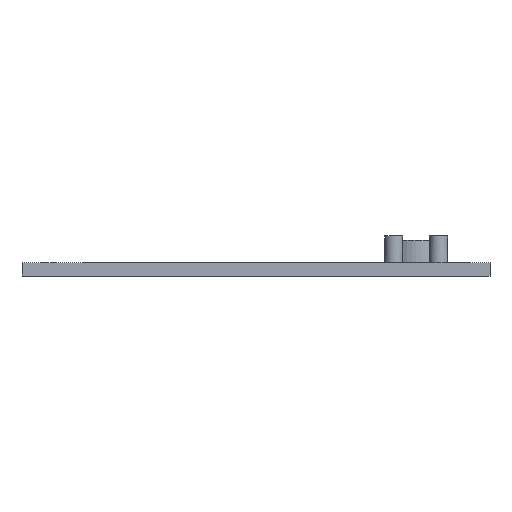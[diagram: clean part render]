
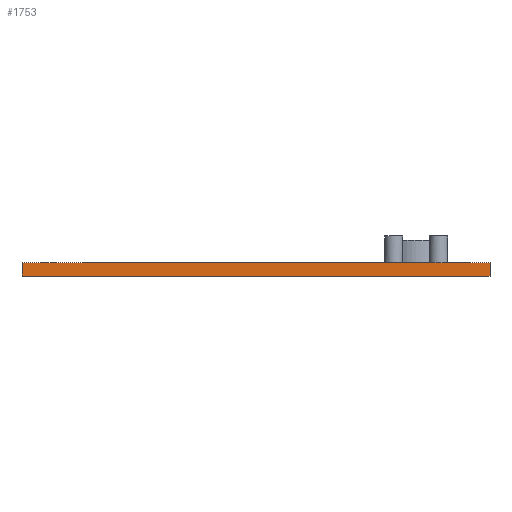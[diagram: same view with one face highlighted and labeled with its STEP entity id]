
A CAD part, front view. The second image highlights one B-rep face of the part: STEP entity #1753.
In plain terms, the highlighted planar face has unit normal (0, -1, 0).
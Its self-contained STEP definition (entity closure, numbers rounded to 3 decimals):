
#32 = PLANE('',#33);
#33 = AXIS2_PLACEMENT_3D('',#34,#35,#36);
#34 = CARTESIAN_POINT('',(0.,202.,3.));
#35 = DIRECTION('',(1.,0.,0.));
#36 = DIRECTION('',(0.,0.,-1.));
#57 = VERTEX_POINT('',#58);
#58 = CARTESIAN_POINT('',(0.,0.,3.));
#72 = PLANE('',#73);
#73 = AXIS2_PLACEMENT_3D('',#74,#75,#76);
#74 = CARTESIAN_POINT('',(0.,202.,3.));
#75 = DIRECTION('',(0.,0.,-1.));
#76 = DIRECTION('',(1.,0.,0.));
#84 = EDGE_CURVE('',#57,#85,#87,.T.);
#85 = VERTEX_POINT('',#86);
#86 = CARTESIAN_POINT('',(0.,0.,0.));
#87 = SURFACE_CURVE('',#88,(#92,#99),.PCURVE_S1.);
#88 = LINE('',#89,#90);
#89 = CARTESIAN_POINT('',(0.,0.,3.));
#90 = VECTOR('',#91,1.);
#91 = DIRECTION('',(0.,0.,-1.));
#92 = PCURVE('',#32,#93);
#93 = DEFINITIONAL_REPRESENTATION('',(#94),#98);
#94 = LINE('',#95,#96);
#95 = CARTESIAN_POINT('',(0.,-202.));
#96 = VECTOR('',#97,1.);
#97 = DIRECTION('',(1.,0.));
#98 = ( GEOMETRIC_REPRESENTATION_CONTEXT(2) 
PARAMETRIC_REPRESENTATION_CONTEXT() REPRESENTATION_CONTEXT('2D SPACE',''
  ) );
#99 = PCURVE('',#100,#105);
#100 = PLANE('',#101);
#101 = AXIS2_PLACEMENT_3D('',#102,#103,#104);
#102 = CARTESIAN_POINT('',(0.,0.,3.));
#103 = DIRECTION('',(0.,-1.,0.));
#104 = DIRECTION('',(0.,0.,-1.));
#105 = DEFINITIONAL_REPRESENTATION('',(#106),#110);
#106 = LINE('',#107,#108);
#107 = CARTESIAN_POINT('',(0.,0.));
#108 = VECTOR('',#109,1.);
#109 = DIRECTION('',(1.,0.));
#110 = ( GEOMETRIC_REPRESENTATION_CONTEXT(2) 
PARAMETRIC_REPRESENTATION_CONTEXT() REPRESENTATION_CONTEXT('2D SPACE',''
  ) );
#126 = PLANE('',#127);
#127 = AXIS2_PLACEMENT_3D('',#128,#129,#130);
#128 = CARTESIAN_POINT('',(0.,202.,0.));
#129 = DIRECTION('',(0.,0.,-1.));
#130 = DIRECTION('',(1.,0.,0.));
#202 = PLANE('',#203);
#203 = AXIS2_PLACEMENT_3D('',#204,#205,#206);
#204 = CARTESIAN_POINT('',(105.,202.,3.));
#205 = DIRECTION('',(1.,0.,0.));
#206 = DIRECTION('',(0.,0.,-1.));
#220 = VERTEX_POINT('',#221);
#221 = CARTESIAN_POINT('',(105.,0.,0.));
#242 = EDGE_CURVE('',#85,#220,#243,.T.);
#243 = SURFACE_CURVE('',#244,(#248,#255),.PCURVE_S1.);
#244 = LINE('',#245,#246);
#245 = CARTESIAN_POINT('',(0.,0.,0.));
#246 = VECTOR('',#247,1.);
#247 = DIRECTION('',(1.,0.,0.));
#248 = PCURVE('',#126,#249);
#249 = DEFINITIONAL_REPRESENTATION('',(#250),#254);
#250 = LINE('',#251,#252);
#251 = CARTESIAN_POINT('',(0.,202.));
#252 = VECTOR('',#253,1.);
#253 = DIRECTION('',(1.,0.));
#254 = ( GEOMETRIC_REPRESENTATION_CONTEXT(2) 
PARAMETRIC_REPRESENTATION_CONTEXT() REPRESENTATION_CONTEXT('2D SPACE',''
  ) );
#255 = PCURVE('',#100,#256);
#256 = DEFINITIONAL_REPRESENTATION('',(#257),#261);
#257 = LINE('',#258,#259);
#258 = CARTESIAN_POINT('',(3.,0.));
#259 = VECTOR('',#260,1.);
#260 = DIRECTION('',(0.,1.));
#261 = ( GEOMETRIC_REPRESENTATION_CONTEXT(2) 
PARAMETRIC_REPRESENTATION_CONTEXT() REPRESENTATION_CONTEXT('2D SPACE',''
  ) );
#1753 = ADVANCED_FACE('',(#1754),#100,.T.);
#1754 = FACE_BOUND('',#1755,.T.);
#1755 = EDGE_LOOP('',(#1756,#1779,#1780,#1781));
#1756 = ORIENTED_EDGE('',*,*,#1757,.F.);
#1757 = EDGE_CURVE('',#57,#1758,#1760,.T.);
#1758 = VERTEX_POINT('',#1759);
#1759 = CARTESIAN_POINT('',(105.,0.,3.));
#1760 = SURFACE_CURVE('',#1761,(#1765,#1772),.PCURVE_S1.);
#1761 = LINE('',#1762,#1763);
#1762 = CARTESIAN_POINT('',(0.,0.,3.));
#1763 = VECTOR('',#1764,1.);
#1764 = DIRECTION('',(1.,0.,0.));
#1765 = PCURVE('',#100,#1766);
#1766 = DEFINITIONAL_REPRESENTATION('',(#1767),#1771);
#1767 = LINE('',#1768,#1769);
#1768 = CARTESIAN_POINT('',(0.,0.));
#1769 = VECTOR('',#1770,1.);
#1770 = DIRECTION('',(0.,1.));
#1771 = ( GEOMETRIC_REPRESENTATION_CONTEXT(2) 
PARAMETRIC_REPRESENTATION_CONTEXT() REPRESENTATION_CONTEXT('2D SPACE',''
  ) );
#1772 = PCURVE('',#72,#1773);
#1773 = DEFINITIONAL_REPRESENTATION('',(#1774),#1778);
#1774 = LINE('',#1775,#1776);
#1775 = CARTESIAN_POINT('',(0.,202.));
#1776 = VECTOR('',#1777,1.);
#1777 = DIRECTION('',(1.,0.));
#1778 = ( GEOMETRIC_REPRESENTATION_CONTEXT(2) 
PARAMETRIC_REPRESENTATION_CONTEXT() REPRESENTATION_CONTEXT('2D SPACE',''
  ) );
#1779 = ORIENTED_EDGE('',*,*,#84,.T.);
#1780 = ORIENTED_EDGE('',*,*,#242,.T.);
#1781 = ORIENTED_EDGE('',*,*,#1782,.F.);
#1782 = EDGE_CURVE('',#1758,#220,#1783,.T.);
#1783 = SURFACE_CURVE('',#1784,(#1788,#1795),.PCURVE_S1.);
#1784 = LINE('',#1785,#1786);
#1785 = CARTESIAN_POINT('',(105.,0.,3.));
#1786 = VECTOR('',#1787,1.);
#1787 = DIRECTION('',(0.,0.,-1.));
#1788 = PCURVE('',#100,#1789);
#1789 = DEFINITIONAL_REPRESENTATION('',(#1790),#1794);
#1790 = LINE('',#1791,#1792);
#1791 = CARTESIAN_POINT('',(0.,105.));
#1792 = VECTOR('',#1793,1.);
#1793 = DIRECTION('',(1.,0.));
#1794 = ( GEOMETRIC_REPRESENTATION_CONTEXT(2) 
PARAMETRIC_REPRESENTATION_CONTEXT() REPRESENTATION_CONTEXT('2D SPACE',''
  ) );
#1795 = PCURVE('',#202,#1796);
#1796 = DEFINITIONAL_REPRESENTATION('',(#1797),#1801);
#1797 = LINE('',#1798,#1799);
#1798 = CARTESIAN_POINT('',(0.,-202.));
#1799 = VECTOR('',#1800,1.);
#1800 = DIRECTION('',(1.,0.));
#1801 = ( GEOMETRIC_REPRESENTATION_CONTEXT(2) 
PARAMETRIC_REPRESENTATION_CONTEXT() REPRESENTATION_CONTEXT('2D SPACE',''
  ) );
